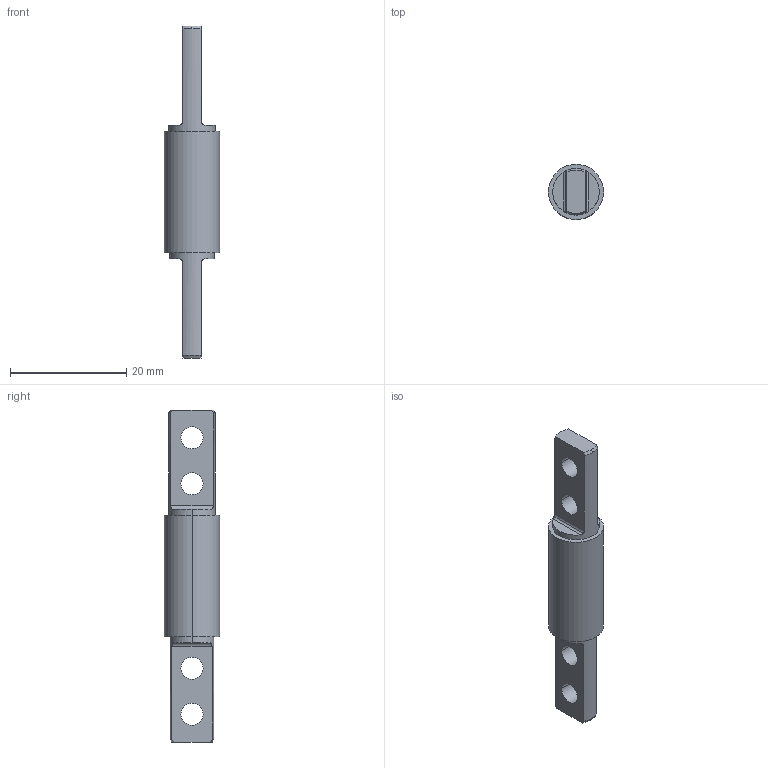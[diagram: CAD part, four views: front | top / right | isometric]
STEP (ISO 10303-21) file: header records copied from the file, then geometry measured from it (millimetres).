
FILE_DESCRIPTION(('STEP AP214'),'1');
FILE_NAME('C:/Users/HAN/Desktop/2000-0601-HNG Rev 0_0.stp','2012-12-04T04:07:21',(' '),(' '),'Spatial InterOp 3D',' ',' ');
FILE_SCHEMA(('automotive_design'));
Length unit declared in the file: inch
Products named in the file (3): 2000-0601-SHA Rev 0_0; 2000-0602-SHA Rev 0_0; 2000-0601-TUB Rev 0_0
Bounding box: 9.5 x 9.5 x 57.15 mm (x, y, z)
Volume: 2264.7 mm3; surface area: 2734.7 mm2
Topology: 3 solids, 3 shells, 52 faces, 130 edges, 86 vertices
Faces by surface type: cylinder 28, plane 16, cone 8
Entity records: 2174 total; most frequent: CARTESIAN_POINT 443, DIRECTION 274, ORIENTED_EDGE 260, EDGE_CURVE 130, AXIS2_PLACEMENT_3D 113, VERTEX_POINT 86, EDGE_LOOP 64, CIRCLE 58
